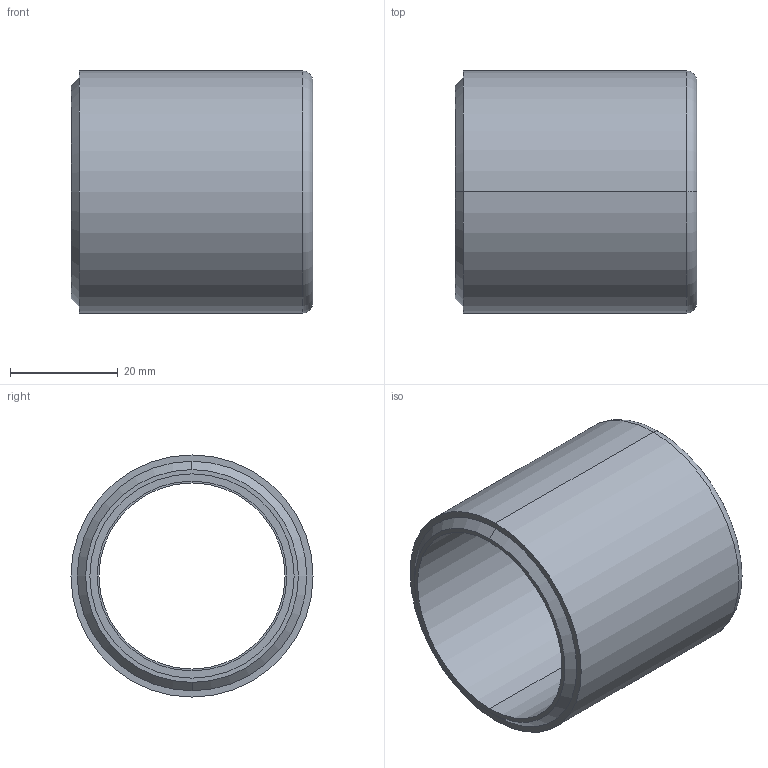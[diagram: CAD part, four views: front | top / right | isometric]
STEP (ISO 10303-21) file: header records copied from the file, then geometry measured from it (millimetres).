
FILE_DESCRIPTION (( 'STEP AP214' ), '1' );
FILE_NAME ('CR-INFV-08-09.STEP', '2020-12-10T16:58:48', ( '' ), ( '' ), 'SwSTEP 2.0', 'SolidWorks 2019', '' );
FILE_SCHEMA (( 'AUTOMOTIVE_DESIGN' ));
Length unit declared in the file: inch
Products named in the file (1): CR-INFV-08-09
Bounding box: 44.81 x 44.88 x 44.88 mm (x, y, z)
Volume: 22979.6 mm3; surface area: 12523.6 mm2
Topology: 1 solids, 1 shells, 20 faces, 40 edges, 26 vertices
Faces by surface type: cylinder 10, plane 6, cone 2, torus 2
Entity records: 840 total; most frequent: DIRECTION 110, CARTESIAN_POINT 87, ORIENTED_EDGE 80, AXIS2_PLACEMENT_3D 49, EDGE_CURVE 40, CIRCLE 28, EDGE_LOOP 26, VERTEX_POINT 26
